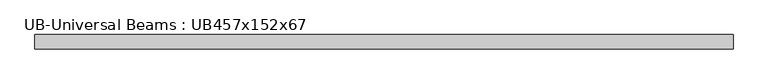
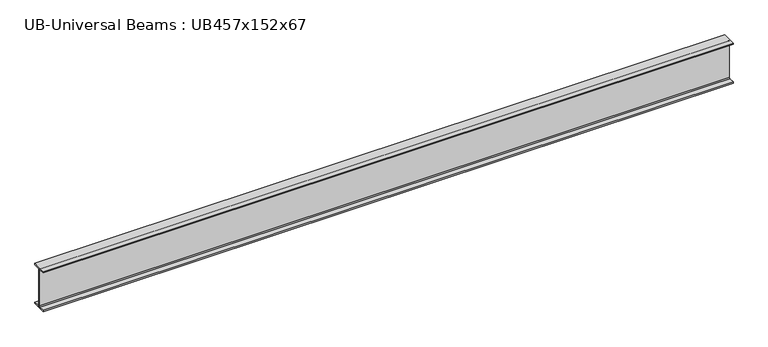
"""IFC4 building model written with IfcOpenShell, lengths in millimetres: beam geometry, UB-Universal Beams : UB457x152x67."""

from ifc_helpers import new_model, si_unit, point, frame, frame_2d, origin, place, context, project, spatial, polyline, circle_curve, trimmed, segment, composite_curve, outline, extrude, source, transform, mapped, element, save


def ub_universal_beams_ub457x152x67_de37d5a7(model_context):
    return source(origin(), model_context, "Body", "SweptSolid", [
        extrude(outline(composite_curve([segment(polyline([(76.9, -214.0), (76.9, -229.0), (-76.9, -229.0), (-76.9, -214.0), (-14.7, -214.0)]), True, "CONTINUOUS"), segment(trimmed(circle_curve(frame_2d((-14.7, -203.8)), 10.2), [point((-14.7, -214.0))], [point((-4.5, -203.8))], True, "CARTESIAN"), True, "CONTINUOUS"), segment(polyline([(-4.5, -203.8), (-4.5, 203.8)]), True, "CONTINUOUS"), segment(trimmed(circle_curve(frame_2d((-14.7, 203.8)), 10.2), [point((-4.5, 203.8))], [point((-14.7, 214.0))], True, "CARTESIAN"), True, "CONTINUOUS"), segment(polyline([(-14.7, 214.0), (-76.9, 214.0), (-76.9, 229.0), (76.9, 229.0), (76.9, 214.0), (14.7, 214.0)]), True, "CONTINUOUS"), segment(trimmed(circle_curve(frame_2d((14.7, 203.8)), 10.2), [point((14.7, 214.0))], [point((4.5, 203.8))], True, "CARTESIAN"), True, "CONTINUOUS"), segment(polyline([(4.5, 203.8), (4.5, -203.8)]), True, "CONTINUOUS"), segment(trimmed(circle_curve(frame_2d((14.7, -203.8)), 10.2), [point((4.5, -203.8))], [point((14.7, -214.0))], True, "CARTESIAN"), True, "CONTINUOUS"), segment(polyline([(14.7, -214.0), (76.9, -214.0)]), True, "CONTINUOUS")], self_intersect=False)), frame((-3729.4, 0.0, 0.0), z_axis=(1.0, 0.0, 0.0), x_axis=(0.0, 1.0, 0.0)), (0.0, 0.0, 1.0), 7458.8),
    ])


if __name__ == "__main__":
    model = new_model("IFC4")
    model_context = context("Model", 3, world=origin())
    ifc_project = project(units=[si_unit("LENGTHUNIT", "METRE", prefix="MILLI")], contexts=[model_context])
    site = spatial("IfcSite", under=ifc_project)
    building = spatial("IfcBuilding", under=site)
    placement = place(None, origin())
    ub_universal_beams_ub457x152x67_shape = ub_universal_beams_ub457x152x67_de37d5a7(model_context)
    element("IfcBeam", 1, ObjectType="UB-Universal Beams : UB457x152x67", at=placement, inside=building, context=model_context, shape_type="MappedRepresentation", body=[
        mapped(ub_universal_beams_ub457x152x67_shape, transform((0.0, 0.0, 0.0), x_axis=(1.0, 0.0, 0.0), y_axis=(0.0, 1.0, 0.0), z_axis=(0.0, 0.0, 1.0))),
    ])
    save(model, "model.ifc")
